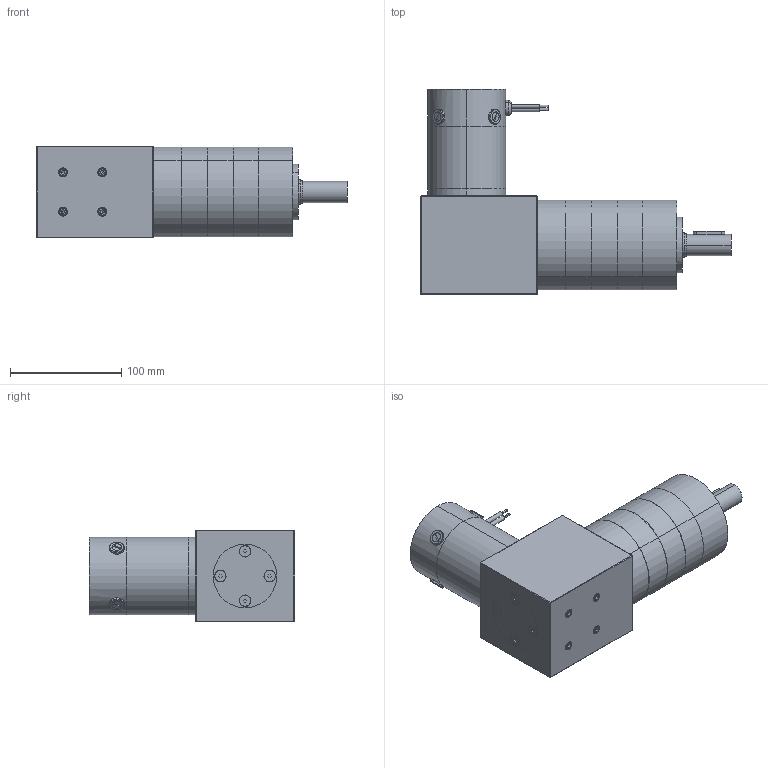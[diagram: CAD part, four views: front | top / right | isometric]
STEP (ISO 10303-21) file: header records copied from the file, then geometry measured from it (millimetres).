
FILE_DESCRIPTION (( 'STEP AP203' ), '1' );
FILE_NAME ('s27411bgra4.step', '2018-12-07T20:05:46', ( '' ), ( '' ), 'SwSTEP 2.0', 'SolidWorks 2017', '' );
FILE_SCHEMA (( 'CONFIG_CONTROL_DESIGN' ));
Products named in the file (1): s27411bgra4
Bounding box: 278.98 x 184.15 x 82.55 mm (x, y, z)
Volume: 1799145.3 mm3; surface area: 202396.8 mm2
Topology: 27 solids, 27 shells, 1116 faces, 2815 edges, 1802 vertices
Faces by surface type: cylinder 695, plane 294, cone 101, torus 14, bspline 8, sphere 4
Entity records: 52808 total; most frequent: CARTESIAN_POINT 28615, ORIENTED_EDGE 5582, DIRECTION 4544, EDGE_CURVE 2791, VERTEX_POINT 1802, AXIS2_PLACEMENT_3D 1674, EDGE_LOOP 1221, LINE 1196
